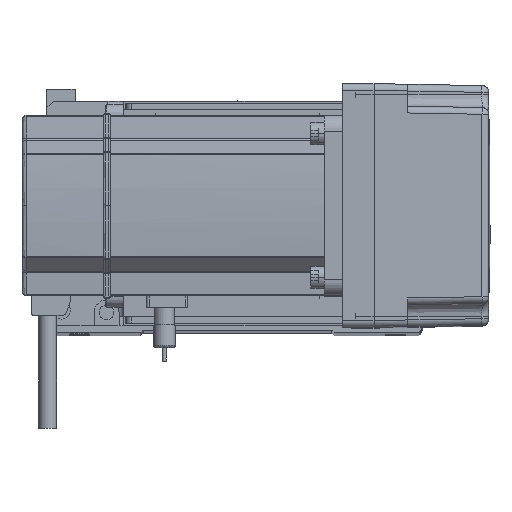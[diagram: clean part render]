
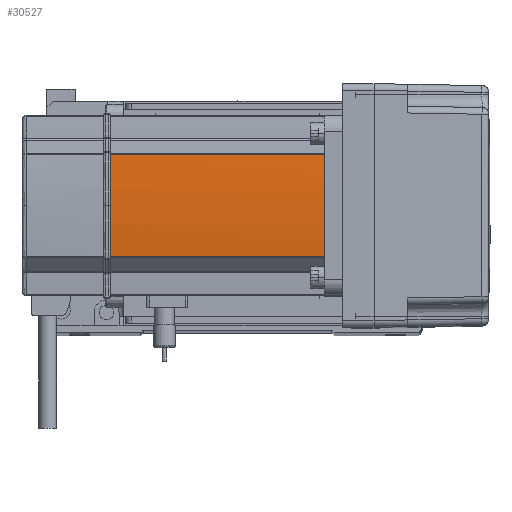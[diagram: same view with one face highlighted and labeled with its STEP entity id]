
A CAD part, top view. The second image highlights one B-rep face of the part: STEP entity #30527.
In plain terms, the highlighted cylindrical face has radius 270 mm (diameter 540 mm), a partial arc.
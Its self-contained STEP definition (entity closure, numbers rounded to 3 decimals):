
#883 = VERTEX_POINT ( 'NONE', #27968 ) ;
#3136 = CIRCLE ( 'NONE', #48938, 270. ) ;
#4258 = ORIENTED_EDGE ( 'NONE', *, *, #30011, .T. ) ;
#4467 = DIRECTION ( 'NONE',  ( 0., 0., -1. ) ) ;
#5669 = DIRECTION ( 'NONE',  ( 0., 0., -1. ) ) ;
#6606 = DIRECTION ( 'NONE',  ( 0., 0., -1. ) ) ;
#7621 = VERTEX_POINT ( 'NONE', #39780 ) ;
#8763 = EDGE_LOOP ( 'NONE', ( #8832, #4258, #45279, #48076, #44101 ) ) ;
#8783 = CARTESIAN_POINT ( 'NONE',  ( -39.042, -22.724, 0. ) ) ;
#8832 = ORIENTED_EDGE ( 'NONE', *, *, #32368, .T. ) ;
#11418 = CARTESIAN_POINT ( 'NONE',  ( -39.042, 22.724, 39. ) ) ;
#12095 = LINE ( 'NONE', #15458, #56354 ) ;
#12560 = CARTESIAN_POINT ( 'NONE',  ( 230., 0., 134. ) ) ;
#12938 = DIRECTION ( 'NONE',  ( 1., 0., 0. ) ) ;
#13158 = AXIS2_PLACEMENT_3D ( 'NONE', #18416, #5669, #53954 ) ;
#13475 = EDGE_CURVE ( 'NONE', #7621, #42168, #12095, .T. ) ;
#15350 = LINE ( 'NONE', #8783, #24352 ) ;
#15458 = CARTESIAN_POINT ( 'NONE',  ( -39.042, 22.724, 0. ) ) ;
#17867 = CIRCLE ( 'NONE', #21067, 270. ) ;
#18416 = CARTESIAN_POINT ( 'NONE',  ( 230., 0., 134. ) ) ;
#20723 = EDGE_CURVE ( 'NONE', #31430, #42168, #3136, .T. ) ;
#21067 = AXIS2_PLACEMENT_3D ( 'NONE', #12560, #4467, #12938 ) ;
#24352 = VECTOR ( 'NONE', #41370, 1000. ) ;
#27968 = CARTESIAN_POINT ( 'NONE',  ( -40., 0., 134. ) ) ;
#30011 = EDGE_CURVE ( 'NONE', #883, #7621, #36018, .T. ) ;
#30527 = ADVANCED_FACE ( 'NONE', ( #38022 ), #38690, .T. ) ;
#31223 = CARTESIAN_POINT ( 'NONE',  ( -39.042, -22.724, 39. ) ) ;
#31430 = VERTEX_POINT ( 'NONE', #31223 ) ;
#31688 = AXIS2_PLACEMENT_3D ( 'NONE', #56390, #43421, #52132 ) ;
#32368 = EDGE_CURVE ( 'NONE', #50843, #883, #17867, .T. ) ;
#35131 = CARTESIAN_POINT ( 'NONE',  ( -39.042, -22.724, 134. ) ) ;
#36018 = CIRCLE ( 'NONE', #13158, 270. ) ;
#38022 = FACE_OUTER_BOUND ( 'NONE', #8763, .T. ) ;
#38690 = CYLINDRICAL_SURFACE ( 'NONE', #31688, 270. ) ;
#39780 = CARTESIAN_POINT ( 'NONE',  ( -39.042, 22.724, 134. ) ) ;
#40747 = CARTESIAN_POINT ( 'NONE',  ( 230., 0., 39. ) ) ;
#41128 = DIRECTION ( 'NONE',  ( 1., 0., 0. ) ) ;
#41370 = DIRECTION ( 'NONE',  ( 0., 0., 1. ) ) ;
#42168 = VERTEX_POINT ( 'NONE', #11418 ) ;
#43421 = DIRECTION ( 'NONE',  ( 0., 0., 1. ) ) ;
#44101 = ORIENTED_EDGE ( 'NONE', *, *, #48542, .T. ) ;
#44965 = DIRECTION ( 'NONE',  ( 0., 0., -1. ) ) ;
#45279 = ORIENTED_EDGE ( 'NONE', *, *, #13475, .T. ) ;
#48076 = ORIENTED_EDGE ( 'NONE', *, *, #20723, .F. ) ;
#48542 = EDGE_CURVE ( 'NONE', #31430, #50843, #15350, .T. ) ;
#48938 = AXIS2_PLACEMENT_3D ( 'NONE', #40747, #44965, #41128 ) ;
#50843 = VERTEX_POINT ( 'NONE', #35131 ) ;
#52132 = DIRECTION ( 'NONE',  ( 1., 0., 0. ) ) ;
#53954 = DIRECTION ( 'NONE',  ( 1., 0., 0. ) ) ;
#56354 = VECTOR ( 'NONE', #6606, 1000. ) ;
#56390 = CARTESIAN_POINT ( 'NONE',  ( 230., 0., 0. ) ) ;
